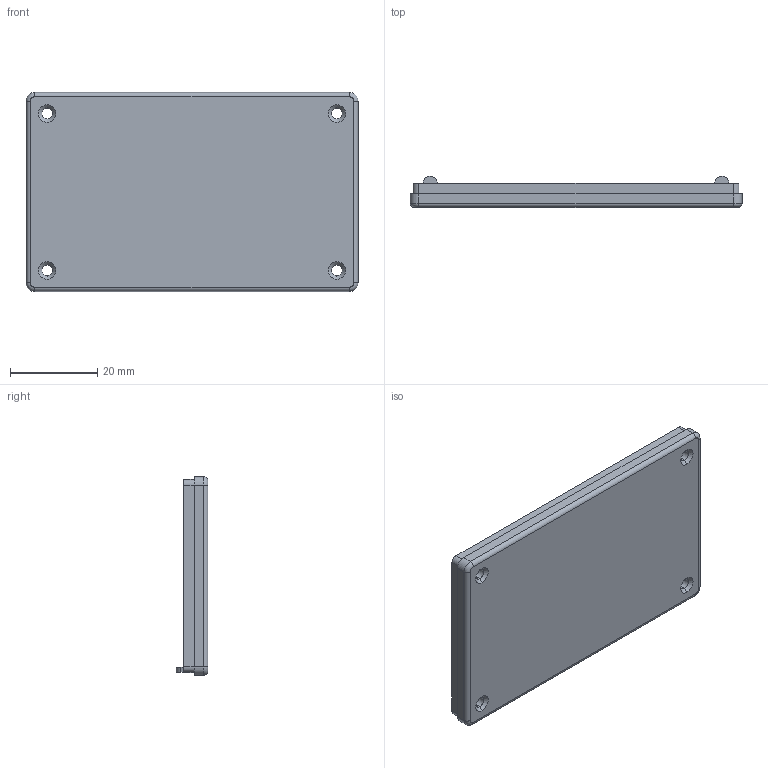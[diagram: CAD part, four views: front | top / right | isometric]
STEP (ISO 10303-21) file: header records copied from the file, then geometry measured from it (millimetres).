
FILE_DESCRIPTION (( 'STEP AP214' ), '1' );
FILE_NAME ('Cos PP113.STEP', '2017-11-10T11:51:42', ( 'aaa' ), ( '' ), 'SwSTEP 2.0', 'SolidWorks 2013', '' );
FILE_SCHEMA (( 'AUTOMOTIVE_DESIGN' ));
Length unit declared in the file: millimetre
Products named in the file (1): Cos PP113
Bounding box: 76.2 x 7.25 x 45.7 mm (x, y, z)
Volume: 7029.3 mm3; surface area: 9388.7 mm2
Topology: 1 solids, 1 shells, 75 faces, 188 edges, 120 vertices
Faces by surface type: cylinder 34, plane 29, cone 8, torus 4
Entity records: 2304 total; most frequent: DIRECTION 420, CARTESIAN_POINT 384, ORIENTED_EDGE 376, EDGE_CURVE 188, AXIS2_PLACEMENT_3D 156, VERTEX_POINT 120, LINE 108, VECTOR 108
